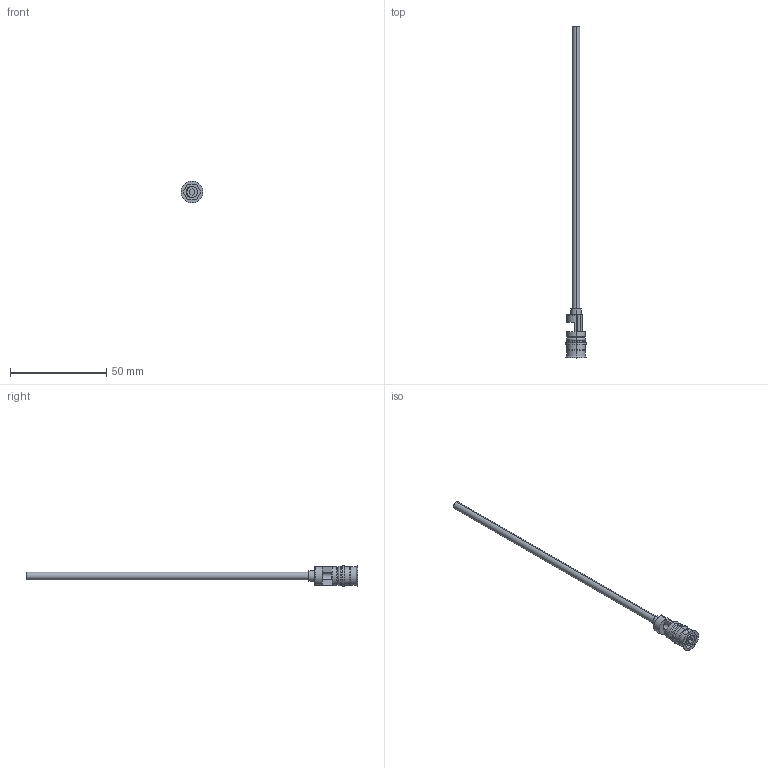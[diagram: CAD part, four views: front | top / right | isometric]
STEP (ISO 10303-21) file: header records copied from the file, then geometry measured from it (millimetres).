
FILE_DESCRIPTION (( 'STEP AP203' ), '1' );
FILE_NAME ('RF-10Fx150-4.STEP', '2015-11-20T08:24:46', ( 'Balzi' ), ( '' ), 'SwSTEP 2.0', 'SolidWorks 2015', '' );
FILE_SCHEMA (( 'CONFIG_CONTROL_DESIGN' ));
Length unit declared in the file: millimetre
Products named in the file (1): RF-10Fx150-4
Bounding box: 11.3 x 172.5 x 11.3 mm (x, y, z)
Volume: 1656.9 mm3; surface area: 4830.6 mm2
Topology: 1 solids, 1 shells, 71 faces, 164 edges, 102 vertices
Faces by surface type: plane 26, cylinder 25, cone 12, torus 8
Entity records: 2114 total; most frequent: DIRECTION 385, CARTESIAN_POINT 357, ORIENTED_EDGE 328, EDGE_CURVE 164, AXIS2_PLACEMENT_3D 154, VERTEX_POINT 102, CIRCLE 82, EDGE_LOOP 80
